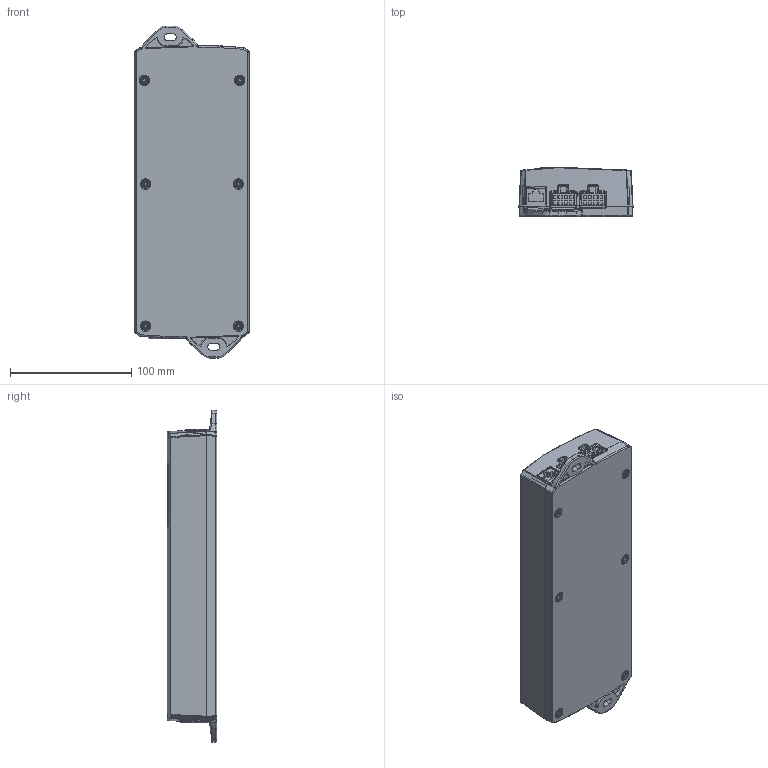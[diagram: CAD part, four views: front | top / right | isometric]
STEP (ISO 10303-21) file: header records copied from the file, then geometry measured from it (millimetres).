
FILE_DESCRIPTION (( 'STEP AP203' ), '1' );
FILE_NAME ('3D_TC15S.STEP', '2018-05-02T10:18:30', ( '' ), ( '' ), 'SwSTEP 2.0', 'SolidWorks 2015', '' );
FILE_SCHEMA (( 'CONFIG_CONTROL_DESIGN' ));
Length unit declared in the file: millimetre
Products named in the file (1): 3D_TC15S
Bounding box: 94 x 40.72 x 273.4 mm (x, y, z)
Volume: 869628.2 mm3; surface area: 122277.8 mm2
Topology: 9 solids, 9 shells, 1206 faces, 3200 edges, 2045 vertices
Faces by surface type: plane 541, bspline 353, cylinder 214, torus 44, sphere 43, cone 11
Entity records: 47743 total; most frequent: CARTESIAN_POINT 20731, ORIENTED_EDGE 6350, DIRECTION 4448, EDGE_CURVE 3175, VERTEX_POINT 2043, VECTOR 1672, LINE 1672, AXIS2_PLACEMENT_3D 1388
